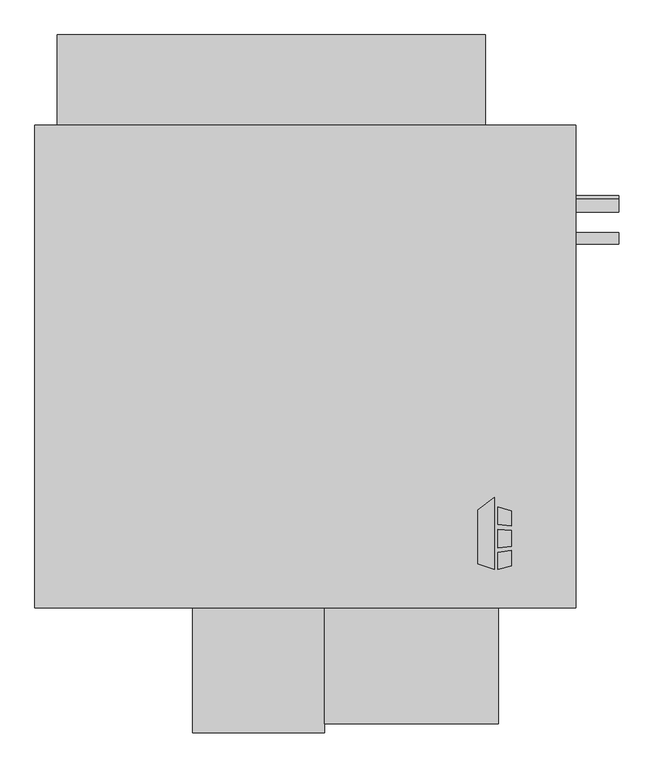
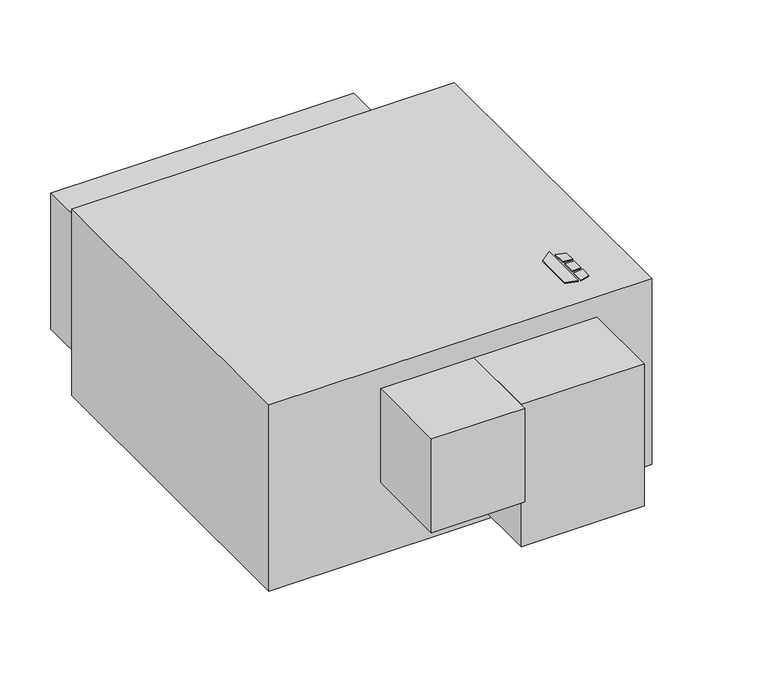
"""IFC4 building model written with IfcOpenShell, lengths in millimetres: proxy geometry, Horizontal_Direct_Drive_Blower_Coil_Unit_-_HDY_-_IEC_-_2-Pipe_Cool-EHeat_RH_2022 : Size 10 - 460v/60Hz/3Ph - 8 Row 9.9kW."""

from ifc_helpers import new_model, si_unit, point, frame, frame_2d, origin, origin_with_axes, place, context, project, spatial, polyline, circle_curve, trimmed, segment, composite_curve, outline, extrude, source, transform, mapped, element, save


def mechanical_equipment_3913f591(model_context):
    return source(origin(), model_context, "Body", "SweptSolid", [
        extrude(outline(polyline([(-192.3980239, -267.6578476), (-159.8397272, -242.2205184), (-159.8397272, -384.175), (-192.3980239, -373.9554201), (-192.3980239, -267.6578476)])), origin_with_axes(), (0.0, 0.0, 1.0), 3.175),
        extrude(outline(polyline([(-153.0813942, -295.529852), (-153.0813942, -261.0499379), (-127.0, -269.2365115), (-127.0, -298.7322446), (-153.0813942, -295.529852)])), origin_with_axes(), (0.0, 0.0, 1.0), 3.175),
        extrude(outline(polyline([(-127.0, -377.1865115), (-153.0813942, -384.175), (-153.0813942, -350.9536996), (-127.0, -347.4118564), (-127.0, -377.1865115)])), origin_with_axes(), (0.0, 0.0, 1.0), 3.175),
        extrude(outline(polyline([(-127.0, -307.8138277), (-127.0, -339.063983), (-153.0813942, -341.805248), (-153.0813942, -305.9475378), (-127.0, -307.8138277)])), origin_with_axes(), (0.0, 0.0, 1.0), 3.175),
        extrude(outline(polyline([(0.0, 492.125), (0.0, -460.375), (-1066.8, -460.375), (-1066.8, 492.125), (0.0, 492.125)])), frame((0.0, 0.0, -549.2558174), z_axis=(0.0, 0.0, 1.0), x_axis=(1.0, 0.0, 0.0)), (0.0, 0.0, 1.0), 549.2558174),
        extrude(outline(polyline([(-152.4, -688.975), (-495.3, -688.975), (-495.3, -460.375), (-152.4, -460.375), (-152.4, -688.975)])), frame((0.0, 0.0, -479.4058174), z_axis=(0.0, 0.0, 1.0), x_axis=(1.0, 0.0, 0.0)), (0.0, 0.0, 1.0), 419.1),
        extrude(outline(composite_curve([segment(trimmed(circle_curve(frame_2d((333.375, -177.8)), 12.7), [point((346.075, -177.8))], [point((320.675, -177.8))], False, "CARTESIAN"), True, "CONTINUOUS"), segment(trimmed(circle_curve(frame_2d((333.375, -177.8)), 12.7), [point((320.675, -177.8))], [point((346.075, -177.8))], False, "CARTESIAN"), True, "CONTINUOUS")], self_intersect=False)), frame((0.0, 0.0, 0.0), z_axis=(1.0, 0.0, 0.0), x_axis=(0.0, 1.0, 0.0)), (0.0, 0.0, 1.0), 85.2932),
        extrude(outline(composite_curve([segment(trimmed(circle_curve(frame_2d((340.130856, -422.2558174)), 12.7), [point((352.830856, -422.2558174))], [point((327.430856, -422.2558174))], False, "CARTESIAN"), True, "CONTINUOUS"), segment(trimmed(circle_curve(frame_2d((340.130856, -422.2558174)), 12.7), [point((327.430856, -422.2558174))], [point((352.830856, -422.2558174))], False, "CARTESIAN"), True, "CONTINUOUS")], self_intersect=False)), frame((0.0, 0.0, 0.0), z_axis=(1.0, 0.0, 0.0), x_axis=(0.0, 1.0, 0.0)), (0.0, 0.0, 1.0), 85.2932),
        extrude(outline(composite_curve([segment(trimmed(circle_curve(frame_2d((268.4630494, -504.8058174)), 11.1125), [point((279.5755494, -504.8058174))], [point((257.3505494, -504.8058174))], False, "CARTESIAN"), True, "CONTINUOUS"), segment(trimmed(circle_curve(frame_2d((268.4630494, -504.8058174)), 11.1125), [point((257.3505494, -504.8058174))], [point((279.5755494, -504.8058174))], False, "CARTESIAN"), True, "CONTINUOUS")], self_intersect=False)), frame((0.0, 0.0, 0.0), z_axis=(1.0, 0.0, 0.0), x_axis=(0.0, 1.0, 0.0)), (0.0, 0.0, 1.0), 85.2932),
        extrude(outline(polyline([(-1022.35, 669.925), (-177.8, 669.925), (-177.8, 492.125), (-1022.35, 492.125), (-1022.35, 669.925)])), frame((0.0, 0.0, -476.2308174), z_axis=(0.0, 0.0, 1.0), x_axis=(1.0, 0.0, 0.0)), (0.0, 0.0, 1.0), 400.05),
        extrude(outline(polyline([(-495.3, -706.4375), (-755.65, -706.4375), (-755.65, -460.375), (-495.3, -460.375), (-495.3, -706.4375)])), frame((0.0, 0.0, -336.5308174), z_axis=(0.0, 0.0, 1.0), x_axis=(1.0, 0.0, 0.0)), (0.0, 0.0, 1.0), 276.225),
    ])


if __name__ == "__main__":
    model = new_model("IFC4")
    model_context = context("Model", 3, world=origin())
    ifc_project = project(units=[si_unit("LENGTHUNIT", "METRE", prefix="MILLI")], contexts=[model_context])
    site = spatial("IfcSite", under=ifc_project)
    building = spatial("IfcBuilding", under=site)
    placement = place(None, origin())
    mechanical_equipment_shape = mechanical_equipment_3913f591(model_context)
    element("IfcBuildingElementProxy", 1, Name="Horizontal_Direct_Drive_Blower_Coil_Unit_-_HDY_-_IEC_-_2-Pipe_Cool-EHeat_RH_2022 : Size 10 - 460v/60Hz/3Ph - 8 Row 9.9kW", ObjectType="Horizontal_Direct_Drive_Blower_Coil_Unit_-_HDY_-_IEC_-_2-Pipe_Cool-EHeat_RH_2022 : Size 10 - 460v/60Hz/3Ph - 8 Row 9.9kW", at=placement, inside=building, context=model_context, shape_type="MappedRepresentation", body=[
        mapped(mechanical_equipment_shape, transform((0.0, 0.0, 0.0), x_axis=(1.0, 0.0, 0.0), y_axis=(0.0, 1.0, 0.0), z_axis=(0.0, 0.0, 1.0))),
    ])
    save(model, "model.ifc")
